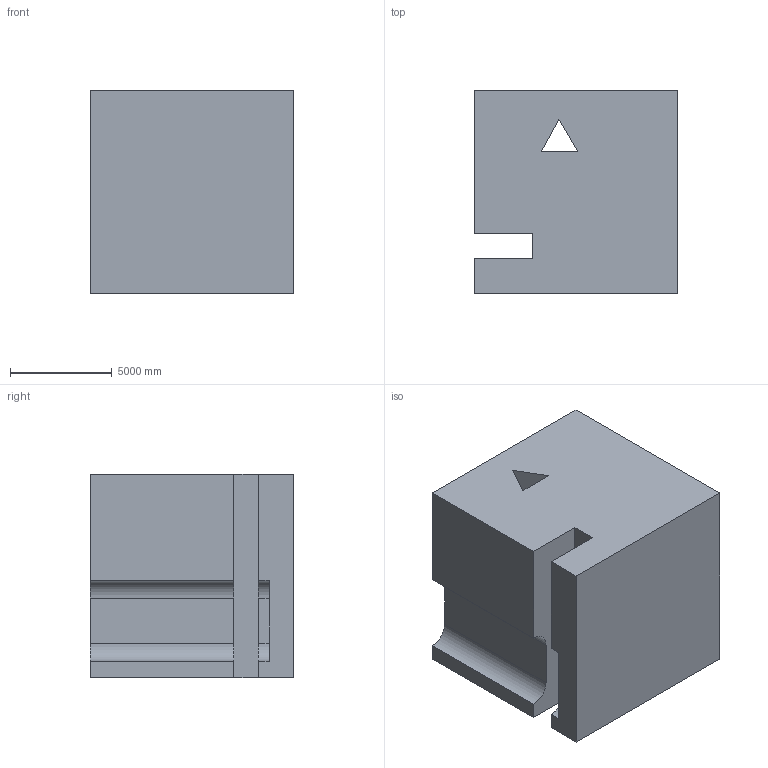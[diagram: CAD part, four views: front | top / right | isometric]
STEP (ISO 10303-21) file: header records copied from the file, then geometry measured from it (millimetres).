
FILE_DESCRIPTION (( 'STEP AP203' ), '1' );
FILE_NAME ('81.STEP', '2022-08-31T11:27:12', ( 'user' ), ( '' ), 'SwSTEP 2.0', 'SolidWorks 2021', '' );
FILE_SCHEMA (( 'CONFIG_CONTROL_DESIGN' ));
Length unit declared in the file: centimetre
Products named in the file (1): 81
Bounding box: 10000 x 10000 x 10000 mm (x, y, z)
Volume: 911502517449.3 mm3; surface area: 727344235 mm2
Topology: 1 solids, 1 shells, 29 faces, 78 edges, 52 vertices
Faces by surface type: plane 23, cylinder 6
Entity records: 985 total; most frequent: CARTESIAN_POINT 160, ORIENTED_EDGE 156, DIRECTION 150, EDGE_CURVE 78, VECTOR 66, LINE 66, VERTEX_POINT 52, AXIS2_PLACEMENT_3D 42
